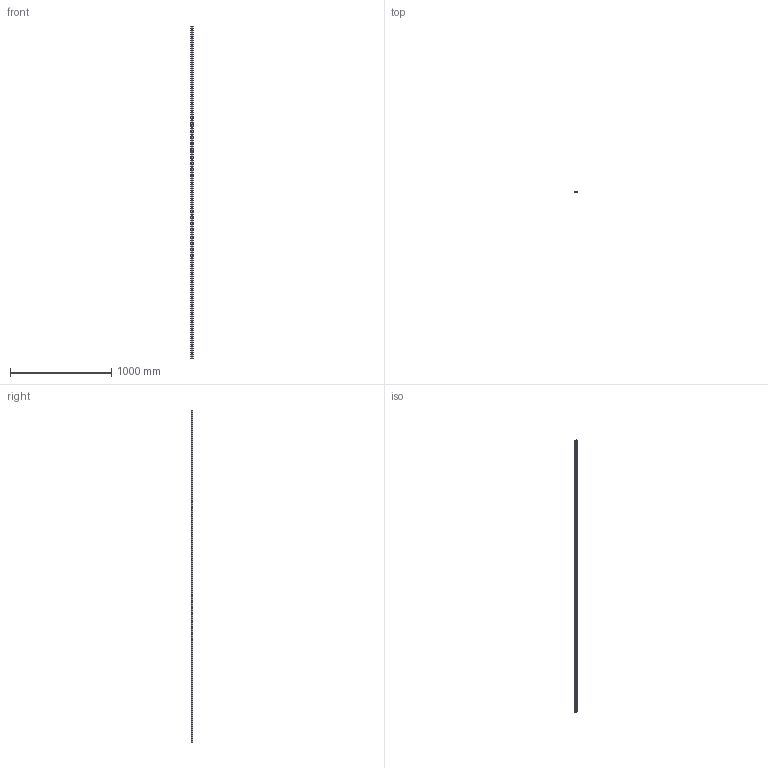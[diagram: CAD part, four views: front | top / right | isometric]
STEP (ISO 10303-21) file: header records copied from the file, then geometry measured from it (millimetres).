
FILE_DESCRIPTION(('STEP AP214'),'1');
FILE_NAME('rail_tex26-3280.stp','2019-03-08T08:29:42',('TraceParts'),('TraceParts S.A.'),'Spatial InterOp 3D',' ',' ');
FILE_SCHEMA(('automotive_design'));
Length unit declared in the file: millimetre
Products named in the file (1): rail_tex26-3280
Bounding box: 26.06 x 14 x 3280 mm (x, y, z)
Volume: 339559.6 mm3; surface area: 289119.8 mm2
Topology: 1 solids, 1 shells, 712 faces, 1845 edges, 1230 vertices
Faces by surface type: plane 501, bspline 117, cylinder 94
Entity records: 45340 total; most frequent: CARTESIAN_POINT 22605, ORIENTED_EDGE 3690, DIRECTION 2991, EDGE_CURVE 1845, LINE 1423, VECTOR 1423, VERTEX_POINT 1230, EDGE_LOOP 889
